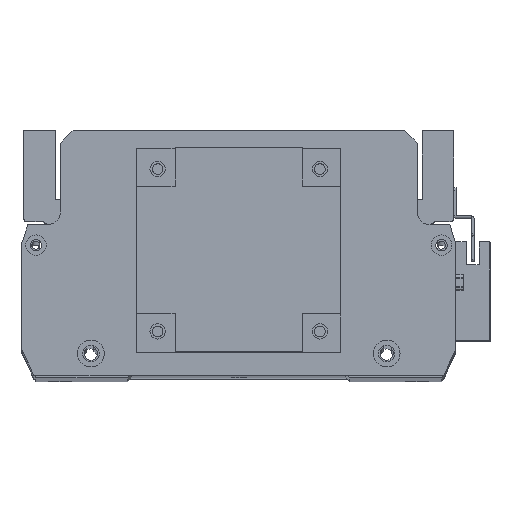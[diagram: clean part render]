
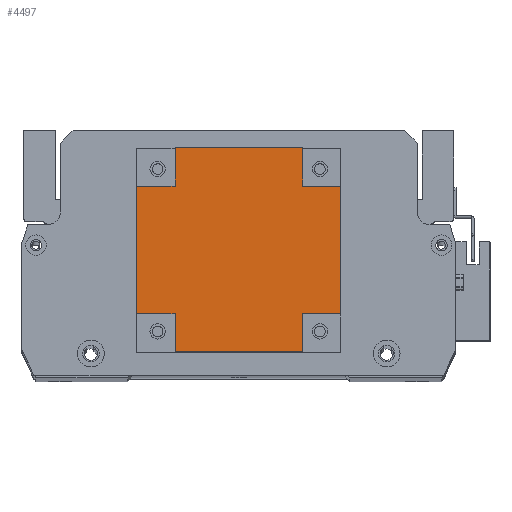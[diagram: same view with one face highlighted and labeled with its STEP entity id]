
A CAD part, top view. The second image highlights one B-rep face of the part: STEP entity #4497.
In plain terms, the highlighted planar face has unit normal (0, 0, 1).
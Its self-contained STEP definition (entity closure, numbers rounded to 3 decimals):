
#78 = VECTOR ( 'NONE', #20933, 1000. ) ;
#211 = CARTESIAN_POINT ( 'NONE',  ( 80., 15., 101.5 ) ) ;
#356 = LINE ( 'NONE', #23711, #10690 ) ;
#1074 = VERTEX_POINT ( 'NONE', #9495 ) ;
#1330 = CARTESIAN_POINT ( 'NONE',  ( 65., 65., 101.5 ) ) ;
#1772 = CARTESIAN_POINT ( 'NONE',  ( 15., 0., 101.5 ) ) ;
#2036 = VECTOR ( 'NONE', #6568, 1000. ) ;
#2181 = VECTOR ( 'NONE', #7295, 1000. ) ;
#2864 = ORIENTED_EDGE ( 'NONE', *, *, #19190, .F. ) ;
#2914 = CARTESIAN_POINT ( 'NONE',  ( 0., 80., 101.5 ) ) ;
#3799 = DIRECTION ( 'NONE',  ( 1., 0., 0. ) ) ;
#3936 = ORIENTED_EDGE ( 'NONE', *, *, #12022, .T. ) ;
#4345 = VECTOR ( 'NONE', #9314, 1000. ) ;
#4411 = VECTOR ( 'NONE', #5986, 1000. ) ;
#4435 = VECTOR ( 'NONE', #3799, 1000. ) ;
#4497 = ADVANCED_FACE ( 'NONE', ( #15701 ), #6630, .F. ) ;
#4893 = ORIENTED_EDGE ( 'NONE', *, *, #16601, .F. ) ;
#5121 = VERTEX_POINT ( 'NONE', #17904 ) ;
#5460 = CARTESIAN_POINT ( 'NONE',  ( 65., 80., 101.5 ) ) ;
#5539 = ORIENTED_EDGE ( 'NONE', *, *, #15744, .F. ) ;
#5712 = VERTEX_POINT ( 'NONE', #1330 ) ;
#5748 = AXIS2_PLACEMENT_3D ( 'NONE', #10572, #8666, #22436 ) ;
#5755 = LINE ( 'NONE', #2914, #78 ) ;
#5791 = CARTESIAN_POINT ( 'NONE',  ( 15., 80., 101.5 ) ) ;
#5918 = EDGE_CURVE ( 'NONE', #20547, #24129, #23604, .T. ) ;
#5979 = VERTEX_POINT ( 'NONE', #21865 ) ;
#5986 = DIRECTION ( 'NONE',  ( 1., 0., 0. ) ) ;
#6263 = EDGE_CURVE ( 'NONE', #1074, #14093, #18722, .T. ) ;
#6422 = EDGE_CURVE ( 'NONE', #5712, #24129, #24793, .T. ) ;
#6568 = DIRECTION ( 'NONE',  ( 0., -1., 0. ) ) ;
#6630 = PLANE ( 'NONE',  #5748 ) ;
#6665 = VERTEX_POINT ( 'NONE', #24523 ) ;
#7173 = VERTEX_POINT ( 'NONE', #16829 ) ;
#7290 = EDGE_CURVE ( 'NONE', #7173, #5979, #13544, .T. ) ;
#7295 = DIRECTION ( 'NONE',  ( 0., -1., 0. ) ) ;
#8479 = EDGE_CURVE ( 'NONE', #24248, #21001, #5755, .T. ) ;
#8666 = DIRECTION ( 'NONE',  ( 0., 0., -1. ) ) ;
#8958 = CARTESIAN_POINT ( 'NONE',  ( 0., 15., 101.5 ) ) ;
#9314 = DIRECTION ( 'NONE',  ( 0., -1., 0. ) ) ;
#9495 = CARTESIAN_POINT ( 'NONE',  ( 0., 65., 101.5 ) ) ;
#9581 = ORIENTED_EDGE ( 'NONE', *, *, #6263, .T. ) ;
#9901 = LINE ( 'NONE', #5791, #24924 ) ;
#9931 = VERTEX_POINT ( 'NONE', #20328 ) ;
#10572 = CARTESIAN_POINT ( 'NONE',  ( 0., 0., 101.5 ) ) ;
#10690 = VECTOR ( 'NONE', #25609, 1000. ) ;
#11269 = EDGE_CURVE ( 'NONE', #5121, #9931, #13716, .T. ) ;
#11434 = ORIENTED_EDGE ( 'NONE', *, *, #11269, .F. ) ;
#12022 = EDGE_CURVE ( 'NONE', #5121, #5979, #19585, .T. ) ;
#12729 = ORIENTED_EDGE ( 'NONE', *, *, #6422, .F. ) ;
#12911 = CARTESIAN_POINT ( 'NONE',  ( 0., 15., 101.5 ) ) ;
#13544 = LINE ( 'NONE', #19118, #2181 ) ;
#13716 = LINE ( 'NONE', #1772, #14361 ) ;
#13841 = CARTESIAN_POINT ( 'NONE',  ( 80., 0., 101.5 ) ) ;
#14093 = VERTEX_POINT ( 'NONE', #8958 ) ;
#14350 = CARTESIAN_POINT ( 'NONE',  ( 15., 80., 101.5 ) ) ;
#14361 = VECTOR ( 'NONE', #15907, 1000. ) ;
#14906 = LINE ( 'NONE', #23041, #4345 ) ;
#15694 = EDGE_LOOP ( 'NONE', ( #20619, #16678, #2864, #9581, #4893, #11434, #3936, #21619, #5539, #19175, #12729, #21040 ) ) ;
#15701 = FACE_OUTER_BOUND ( 'NONE', #15694, .T. ) ;
#15744 = EDGE_CURVE ( 'NONE', #20547, #7173, #356, .T. ) ;
#15907 = DIRECTION ( 'NONE',  ( 0., 1., 0. ) ) ;
#16601 = EDGE_CURVE ( 'NONE', #9931, #14093, #23905, .T. ) ;
#16678 = ORIENTED_EDGE ( 'NONE', *, *, #23121, .F. ) ;
#16829 = CARTESIAN_POINT ( 'NONE',  ( 65., 15., 101.5 ) ) ;
#17749 = CARTESIAN_POINT ( 'NONE',  ( 65., 65., 101.5 ) ) ;
#17904 = CARTESIAN_POINT ( 'NONE',  ( 15., 0., 101.5 ) ) ;
#17941 = CARTESIAN_POINT ( 'NONE',  ( 0., 65., 101.5 ) ) ;
#18722 = LINE ( 'NONE', #20385, #2036 ) ;
#18883 = EDGE_CURVE ( 'NONE', #24248, #5712, #14906, .T. ) ;
#19118 = CARTESIAN_POINT ( 'NONE',  ( 65., 0., 101.5 ) ) ;
#19175 = ORIENTED_EDGE ( 'NONE', *, *, #5918, .T. ) ;
#19190 = EDGE_CURVE ( 'NONE', #1074, #6665, #25569, .T. ) ;
#19585 = LINE ( 'NONE', #19830, #4411 ) ;
#19621 = DIRECTION ( 'NONE',  ( 0., 1., 0. ) ) ;
#19624 = VECTOR ( 'NONE', #25558, 1000. ) ;
#19830 = CARTESIAN_POINT ( 'NONE',  ( 0., 0., 101.5 ) ) ;
#19869 = DIRECTION ( 'NONE',  ( 1., 0., 0. ) ) ;
#20328 = CARTESIAN_POINT ( 'NONE',  ( 15., 15., 101.5 ) ) ;
#20385 = CARTESIAN_POINT ( 'NONE',  ( 0., 0., 101.5 ) ) ;
#20547 = VERTEX_POINT ( 'NONE', #211 ) ;
#20619 = ORIENTED_EDGE ( 'NONE', *, *, #8479, .T. ) ;
#20927 = CARTESIAN_POINT ( 'NONE',  ( 80., 65., 101.5 ) ) ;
#20933 = DIRECTION ( 'NONE',  ( -1., 0., 0. ) ) ;
#21001 = VERTEX_POINT ( 'NONE', #14350 ) ;
#21040 = ORIENTED_EDGE ( 'NONE', *, *, #18883, .F. ) ;
#21619 = ORIENTED_EDGE ( 'NONE', *, *, #7290, .F. ) ;
#21865 = CARTESIAN_POINT ( 'NONE',  ( 65., 0., 101.5 ) ) ;
#22436 = DIRECTION ( 'NONE',  ( -1., 0., 0. ) ) ;
#23041 = CARTESIAN_POINT ( 'NONE',  ( 65., 80., 101.5 ) ) ;
#23121 = EDGE_CURVE ( 'NONE', #6665, #21001, #9901, .T. ) ;
#23288 = VECTOR ( 'NONE', #24679, 1000. ) ;
#23604 = LINE ( 'NONE', #13841, #19624 ) ;
#23711 = CARTESIAN_POINT ( 'NONE',  ( 80., 15., 101.5 ) ) ;
#23905 = LINE ( 'NONE', #12911, #23288 ) ;
#24129 = VERTEX_POINT ( 'NONE', #20927 ) ;
#24248 = VERTEX_POINT ( 'NONE', #5460 ) ;
#24523 = CARTESIAN_POINT ( 'NONE',  ( 15., 65., 101.5 ) ) ;
#24679 = DIRECTION ( 'NONE',  ( -1., 0., 0. ) ) ;
#24793 = LINE ( 'NONE', #17749, #4435 ) ;
#24924 = VECTOR ( 'NONE', #19621, 1000. ) ;
#24990 = VECTOR ( 'NONE', #19869, 1000. ) ;
#25558 = DIRECTION ( 'NONE',  ( 0., 1., 0. ) ) ;
#25569 = LINE ( 'NONE', #17941, #24990 ) ;
#25609 = DIRECTION ( 'NONE',  ( -1., 0., 0. ) ) ;
